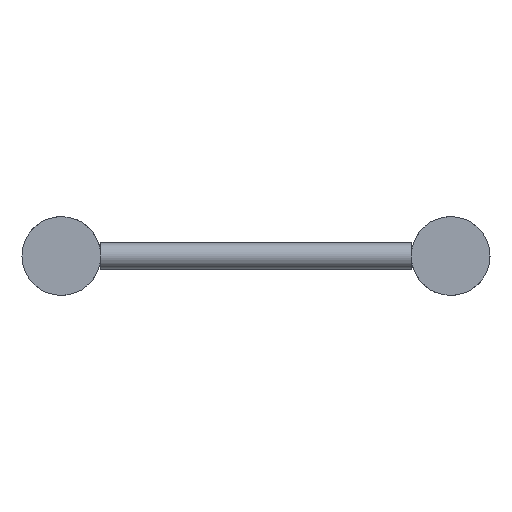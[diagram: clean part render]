
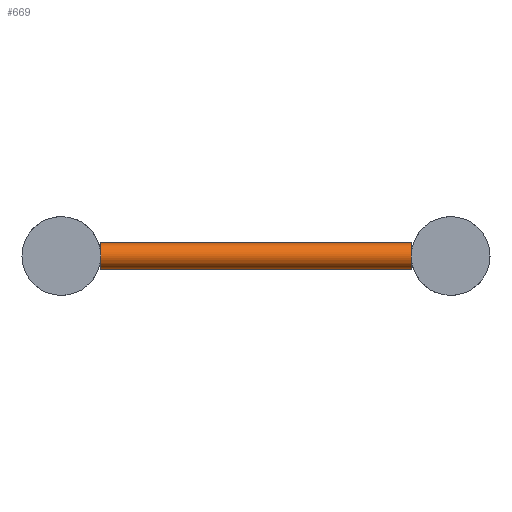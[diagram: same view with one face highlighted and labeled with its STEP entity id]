
A CAD part, left-side view. The second image highlights one B-rep face of the part: STEP entity #669.
In plain terms, the highlighted cylindrical face has radius 8 mm (diameter 16 mm), a full revolution.
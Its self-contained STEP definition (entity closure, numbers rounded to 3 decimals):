
#53=CIRCLE('',#741,8.);
#54=CIRCLE('',#743,8.);
#55=CIRCLE('',#745,8.);
#56=CIRCLE('',#747,8.);
#90=FACE_BOUND('',#230,.T.);
#133=CYLINDRICAL_SURFACE('',#746,8.);
#167=FACE_OUTER_BOUND('',#229,.T.);
#229=EDGE_LOOP('',(#464,#465));
#230=EDGE_LOOP('',(#466,#467));
#322=VERTEX_POINT('',#1053);
#323=VERTEX_POINT('',#1054);
#324=VERTEX_POINT('',#1058);
#325=VERTEX_POINT('',#1059);
#383=EDGE_CURVE('',#323,#322,#53,.T.);
#385=EDGE_CURVE('',#325,#324,#54,.T.);
#386=EDGE_CURVE('',#322,#323,#55,.T.);
#387=EDGE_CURVE('',#324,#325,#56,.T.);
#464=ORIENTED_EDGE('',*,*,#383,.T.);
#465=ORIENTED_EDGE('',*,*,#386,.T.);
#466=ORIENTED_EDGE('',*,*,#385,.T.);
#467=ORIENTED_EDGE('',*,*,#387,.T.);
#669=ADVANCED_FACE('',(#167,#90),#133,.T.);
#741=AXIS2_PLACEMENT_3D('',#1056,#871,#872);
#743=AXIS2_PLACEMENT_3D('',#1061,#876,#877);
#745=AXIS2_PLACEMENT_3D('',#1063,#880,#881);
#746=AXIS2_PLACEMENT_3D('',#1064,#882,#883);
#747=AXIS2_PLACEMENT_3D('',#1065,#884,#885);
#871=DIRECTION('center_axis',(0.,1.,0.));
#872=DIRECTION('ref_axis',(-1.,0.,0.));
#876=DIRECTION('center_axis',(0.,-1.,0.));
#877=DIRECTION('ref_axis',(-1.,0.,0.));
#880=DIRECTION('center_axis',(0.,1.,0.));
#881=DIRECTION('ref_axis',(-1.,0.,0.));
#882=DIRECTION('center_axis',(0.,1.,0.));
#883=DIRECTION('ref_axis',(-1.,0.,0.));
#884=DIRECTION('center_axis',(0.,-1.,0.));
#885=DIRECTION('ref_axis',(-1.,0.,0.));
#1053=CARTESIAN_POINT('',(52.,24.15,0.));
#1054=CARTESIAN_POINT('',(68.,24.15,0.));
#1056=CARTESIAN_POINT('Origin',(60.,24.15,0.));
#1058=CARTESIAN_POINT('',(52.,214.85,0.));
#1059=CARTESIAN_POINT('',(68.,214.85,0.));
#1061=CARTESIAN_POINT('Origin',(60.,214.85,0.));
#1063=CARTESIAN_POINT('Origin',(60.,24.15,0.));
#1064=CARTESIAN_POINT('Origin',(60.,119.5,0.));
#1065=CARTESIAN_POINT('Origin',(60.,214.85,0.));
